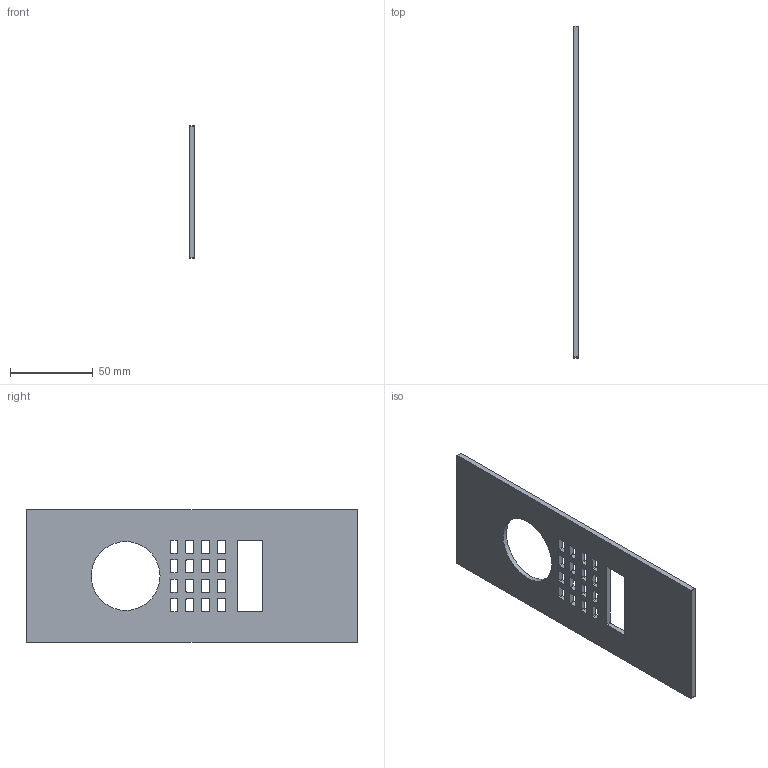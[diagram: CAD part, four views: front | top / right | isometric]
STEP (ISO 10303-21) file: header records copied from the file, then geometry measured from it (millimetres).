
FILE_DESCRIPTION(/* description */ (''),/* implementation_level */ '2;1');
FILE_NAME(/* name */ 'Q:\Neue Struktur\_Bauteile\Supportzeichnungen\D11x\DoorBird IP Video Door Station D1100E.stp',/* time_stamp */ '2022-08-19T10:50:12+02:00',/* author */ ('David Keller'),/* organization */ (''),/* preprocessor_version */ 'ST-DEVELOPER v18.1',/* originating_system */ 'Autodesk Inventor 2020',/* authorisation */ '');
FILE_SCHEMA (('AUTOMOTIVE_DESIGN { 1 0 10303 214 3 1 1 }'));
Length unit declared in the file: millimetre
Products named in the file (1): DoorBird IP Video Door Station D1100E
Bounding box: 3 x 200 x 80 mm (x, y, z)
Volume: 40226.9 mm3; surface area: 30399.3 mm2
Topology: 1 solids, 1 shells, 147 faces, 435 edges, 290 vertices
Faces by surface type: plane 74, cylinder 73
Full cylindrical faces by diameter (mm): 41.5 x1
Entity records: 5068 total; most frequent: DIRECTION 877, CARTESIAN_POINT 873, ORIENTED_EDGE 870, EDGE_CURVE 435, AXIS2_PLACEMENT_3D 294, VERTEX_POINT 290, LINE 289, VECTOR 289
